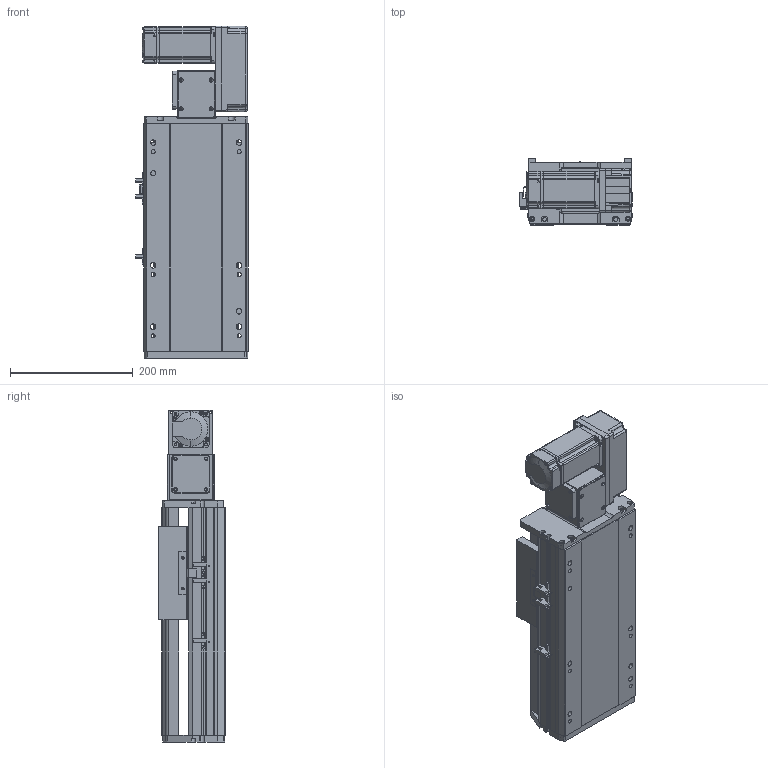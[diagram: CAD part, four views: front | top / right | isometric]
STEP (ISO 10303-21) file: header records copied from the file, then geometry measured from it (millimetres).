
FILE_DESCRIPTION (( 'STEP AP214' ), '1' );
FILE_NAME ('RTB17S-XX-100-R-M40-C4.STEP', '2025-12-11T07:30:39', ( '' ), ( '' ), 'SwSTEP 2.0', 'SolidWorks 2018', '' );
FILE_SCHEMA (( 'AUTOMOTIVE_DESIGN' ));
Length unit declared in the file: millimetre
Products named in the file (14): RTB17S-XX-100-R-M40-C4; RTB14-L-005P--轴承塑胶压盖^RTB17S-R-皮带座装配-400W_RTB17S-XX-XX-R-M40-C4; RTB14-L-017P^RTB17S-R-々湍釱蚾饜-400W_RTB17S-XX-XX-R-M40-C4; RTH13-BL-012覜茼え俋离^RTB17S-XX-XX-R-M40-C4; RTB17S-L-001耜醱啣^RTB17S-XX-XX-R-M40-C4; RTB17S-L-004佪裝蹟譫蟀諉釱^RTB17S-XX-XX-R-M40-C4; RTB14-L-018P^RTB17S-R-々湍釱蚾饜-400W_RTB17S-XX-XX-R-M40-C4; RTB17S-L-007奻裔^RTB17S-XX-XX-R-M40-C4; OMRON EE-SX672 传感器^RTB17S-XX-XX-R-M40-C4; RTB14-L-008-M20--萇儂啣^RTB17S-R-々湍釱蚾饜-400W_RTB17S-XX-XX-R-M40-C4; RTB17-R-011菁釱^RTB17S-XX-XX-R-M40-C4; RTB17S-R-々湍釱蚾饜-400W^RTB17S-XX-XX-R-M40-C4; RTB17S-L-014-T20--々湍釱^RTB17S-R-々湍釱蚾饜-400W_RTB17S-XX-XX-R-M40-C4; 400W侜督萇儂^RTB17S-XX-XX-R-M40-C4
Assembly tree (16 placements, depth 3):
  RTB17S-XX-100-R-M40-C4
    RTB17-R-011菁釱^RTB17S-XX-XX-R-M40-C4
    RTB17S-L-007奻裔^RTB17S-XX-XX-R-M40-C4
    OMRON EE-SX672 传感器^RTB17S-XX-XX-R-M40-C4  x3
    RTB17S-L-001耜醱啣^RTB17S-XX-XX-R-M40-C4
    400W侜督萇儂^RTB17S-XX-XX-R-M40-C4
    RTB17S-L-004佪裝蹟譫蟀諉釱^RTB17S-XX-XX-R-M40-C4
    RTH13-BL-012覜茼え俋离^RTB17S-XX-XX-R-M40-C4
    RTB17S-R-々湍釱蚾饜-400W^RTB17S-XX-XX-R-M40-C4
      RTB17S-L-014-T20--々湍釱^RTB17S-R-々湍釱蚾饜-400W_RTB17S-XX-XX-R-M40-C4
      RTB14-L-005P--轴承塑胶压盖^RTB17S-R-皮带座装配-400W_RTB17S-XX-XX-R-M40-C4
      RTB14-L-008-M20--萇儂啣^RTB17S-R-々湍釱蚾饜-400W_RTB17S-XX-XX-R-M40-C4
      RTB14-L-017P^RTB17S-R-々湍釱蚾饜-400W_RTB17S-XX-XX-R-M40-C4  x2
      RTB14-L-018P^RTB17S-R-々湍釱蚾饜-400W_RTB17S-XX-XX-R-M40-C4
Bounding box: 183.5 x 108 x 541 mm (x, y, z)
Volume: 5032331.6 mm3; surface area: 698601.9 mm2
Topology: 15 solids, 15 shells, 2141 faces, 5871 edges, 3825 vertices
Faces by surface type: plane 1060, cylinder 633, bspline 301, cone 139, torus 8
Entity records: 59561 total; most frequent: CARTESIAN_POINT 16476, ORIENTED_EDGE 8586, DIRECTION 8036, EDGE_CURVE 4293, VERTEX_POINT 2813, AXIS2_PLACEMENT_3D 2743, LINE 2550, VECTOR 2550
